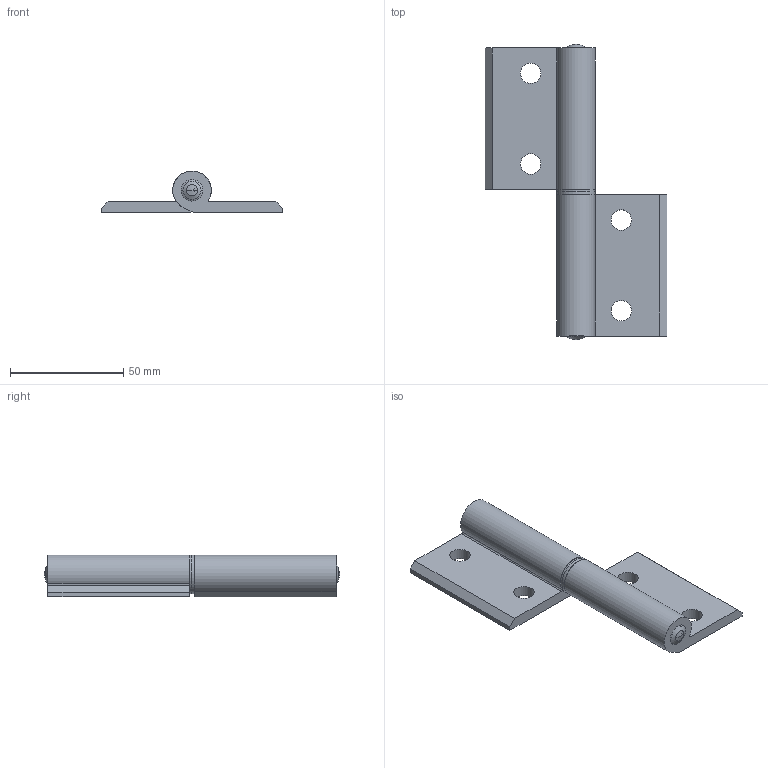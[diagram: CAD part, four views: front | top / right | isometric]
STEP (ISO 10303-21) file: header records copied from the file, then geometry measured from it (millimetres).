
FILE_DESCRIPTION( ( 'STEP AP203' ), '1' );
FILE_NAME( 'C:/AHH-80127-8-R.stp', '2013-10-29T05:47:50', ( ' ' ), ( ' ' ), 'XStep 1.0', ' ', ' ' );
FILE_SCHEMA( ( 'CONFIG_CONTROL_DESIGN' ) );
Length unit declared in the file: metre
Products named in the file (7): Assem1; 1; 2; 3; 4; 5; 6
Bounding box: 80 x 130.2 x 18.5 mm (x, y, z)
Volume: 98155.2 mm3; surface area: 41661.2 mm2
Topology: 12 solids, 12 shells, 96 faces, 226 edges, 154 vertices
Faces by surface type: plane 48, cylinder 34, bspline 8, cone 6
Full cylindrical faces by diameter (mm): 8 x14, 9 x8, 17 x4
Entity records: 1562 total; most frequent: CARTESIAN_POINT 253, DIRECTION 222, ORIENTED_EDGE 158, AXIS2_PLACEMENT_3D 92, EDGE_LOOP 82, EDGE_CURVE 79, VERTEX_POINT 63, FACE_OUTER_BOUND 61
